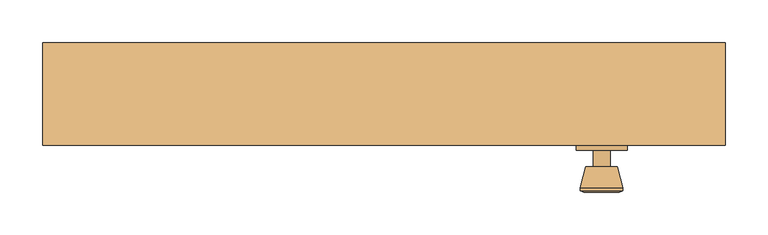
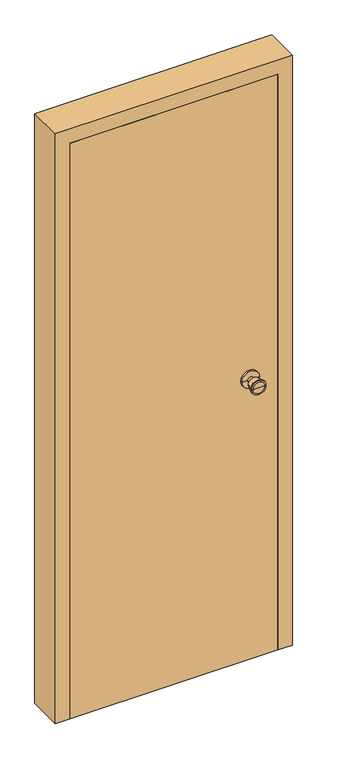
"""IFC4 building model written with IfcOpenShell, lengths in millimetres: door geometry, 單開-矩形- (1) : 80 * 210 cm."""

from ifc_helpers import new_model, si_unit, frame, origin, origin_with_axes, place, context, project, spatial, polyline, circle_curve, outline, extrude, faceted_brep, source, transform, mapped, element, save
from ifc_brep_helpers import plane_surface, cylinder_surface, revolved_surface, advanced_brep


def door_ad5a13f9(model_context):
    return source(origin(), model_context, "Body", "SolidModel", [
        advanced_brep(
        [(285.0, 144.0, 1000.0), (225.0, 144.0, 1000.0), (225.0, 150.0, 1000.0), (285.0, 150.0, 1000.0), (265.0, 144.0, 1000.0), (245.0, 144.0, 1000.0), (265.0, 125.0, 1000.0), (245.0, 125.0, 1000.0), (273.6, 125.0, 1000.0), (236.4, 125.0, 1000.0), (280.0, 100.3, 1000.0), (230.0, 100.3, 1000.0), (280.0, 96.8, 1000.0), (230.0, 96.8, 1000.0), (275.5, 95.0, 1000.0), (234.5, 95.0, 1000.0), (255.0, 95.0, 1000.0), (255.0, 150.0, 1000.0)],
        [
            (0, 1, circle_curve(frame((255.0, 144.0, 1000.0), z_axis=(0.0, 1.0, 0.0), x_axis=(-1.0, 0.0, 0.0)), 30.0)),
            (1, 2),
            (2, 3, circle_curve(frame((255.0, 150.0, 1000.0), z_axis=(0.0, -1.0, 0.0), x_axis=(-1.0, 0.0, 0.0)), 30.0)),
            (3, 0),
            (1, 0, circle_curve(frame((255.0, 144.0, 1000.0), z_axis=(0.0, 1.0, 0.0), x_axis=(-1.0, 0.0, 0.0)), 30.0)),
            (3, 2, circle_curve(frame((255.0, 150.0, 1000.0), z_axis=(0.0, -1.0, 0.0), x_axis=(-1.0, 0.0, 0.0)), 30.0)),
            (4, 5, circle_curve(frame((255.0, 144.0, 1000.0), z_axis=(0.0, 1.0, 0.0), x_axis=(-1.0, 0.0, 0.0)), 10.0)),
            (5, 1),
            (0, 4),
            (5, 4, circle_curve(frame((255.0, 144.0, 1000.0), z_axis=(0.0, 1.0, 0.0), x_axis=(-1.0, 0.0, 0.0)), 10.0)),
            (6, 7, circle_curve(frame((255.0, 125.0, 1000.0), z_axis=(0.0, 1.0, 0.0), x_axis=(-1.0, 0.0, 0.0)), 10.0)),
            (7, 5),
            (4, 6),
            (7, 6, circle_curve(frame((255.0, 125.0, 1000.0), z_axis=(0.0, 1.0, 0.0), x_axis=(-1.0, 0.0, 0.0)), 10.0)),
            (8, 9, circle_curve(frame((255.0, 125.0, 1000.0), z_axis=(0.0, 1.0, 0.0), x_axis=(-1.0, 0.0, 0.0)), 18.6)),
            (9, 7),
            (6, 8),
            (9, 8, circle_curve(frame((255.0, 125.0, 1000.0), z_axis=(0.0, 1.0, 0.0), x_axis=(-1.0, 0.0, 0.0)), 18.6)),
            (10, 11, circle_curve(frame((255.0, 100.3, 1000.0), z_axis=(0.0, 1.0, 0.0), x_axis=(-1.0, 0.0, 0.0)), 25.0)),
            (11, 9),
            (8, 10),
            (11, 10, circle_curve(frame((255.0, 100.3, 1000.0), z_axis=(0.0, 1.0, 0.0), x_axis=(-1.0, 0.0, 0.0)), 25.0)),
            (12, 13, circle_curve(frame((255.0, 96.8, 1000.0), z_axis=(0.0, 1.0, 0.0), x_axis=(-1.0, 0.0, 0.0)), 25.0)),
            (13, 11),
            (10, 12),
            (13, 12, circle_curve(frame((255.0, 96.8, 1000.0), z_axis=(0.0, 1.0, 0.0), x_axis=(-1.0, 0.0, 0.0)), 25.0)),
            (14, 15, circle_curve(frame((255.0, 95.0, 1000.0), z_axis=(0.0, 1.0, 0.0), x_axis=(-1.0, 0.0, 0.0)), 20.5)),
            (15, 13),
            (12, 14),
            (15, 14, circle_curve(frame((255.0, 95.0, 1000.0), z_axis=(0.0, 1.0, 0.0), x_axis=(-1.0, 0.0, 0.0)), 20.5)),
            (16, 15),
            (14, 16),
            (2, 17),
            (17, 3),
        ],
        [
            cylinder_surface(frame((255.0, 210.0, 1000.0), z_axis=(0.0, -1.0, 0.0), x_axis=(-1.0, 0.0, 0.0)), 30.0),
            plane_surface(frame((255.0, 144.0, 1000.0), z_axis=(0.0, -1.0, 0.0), x_axis=(-1.0, 0.0, 0.0))),
            cylinder_surface(frame((255.0, 210.0, 1000.0), z_axis=(0.0, -1.0, 0.0), x_axis=(-1.0, 0.0, 0.0)), 10.0),
            plane_surface(frame((255.0, 125.0, 1000.0), z_axis=(0.0, 1.0, 0.0), x_axis=(-1.0, 0.0, 0.0))),
            revolved_surface(polyline([(236.4, 125.0, 1000.0), (230.0, 100.3, 1000.0)]), (255.0, 210.0, 1000.0), (0.0, -1.0, 0.0)),
            cylinder_surface(frame((255.0, 210.0, 1000.0), z_axis=(0.0, -1.0, 0.0), x_axis=(-1.0, 0.0, 0.0)), 25.0),
            revolved_surface(polyline([(230.0, 96.8, 1000.0), (234.5, 95.0, 1000.0)]), (255.0, 210.0, 1000.0), (0.0, -1.0, 0.0)),
            plane_surface(frame((255.0, 95.0, 1000.0), z_axis=(0.0, -1.0, 0.0), x_axis=(-1.0, 0.0, 0.0))),
            plane_surface(frame((255.0, 150.0, 1000.0), z_axis=(0.0, 1.0, 0.0), x_axis=(-1.0, 0.0, 0.0))),
        ],
        [
            (0, [[1, 2, 3, 4]]),
            (0, [[5, -4, 6, -2]]),
            (1, [[7, 8, -1, 9]]),
            (1, [[10, -9, -5, -8]]),
            (2, [[11, 12, -7, 13]]),
            (2, [[14, -13, -10, -12]]),
            (3, [[15, 16, -11, 17]]),
            (3, [[18, -17, -14, -16]]),
            (4, [[19, 20, -15, 21]]),
            (4, [[22, -21, -18, -20]]),
            (5, [[23, 24, -19, 25]]),
            (5, [[26, -25, -22, -24]]),
            (6, [[27, 28, -23, 29]]),
            (6, [[30, -29, -26, -28]]),
            (7, [[31, -27, 32]]),
            (7, [[-32, -30, -31]]),
            (8, [[-3, 33, 34]]),
            (8, [[-6, -34, -33]]),
        ],
    ),
        advanced_brep(
        [(285.0, 196.0, 1000.0), (285.0, 190.0, 1000.0), (225.0, 190.0, 1000.0), (225.0, 196.0, 1000.0), (265.0, 196.0, 1000.0), (245.0, 196.0, 1000.0), (265.0, 215.0, 1000.0), (245.0, 215.0, 1000.0), (273.6, 215.0, 1000.0), (236.4, 215.0, 1000.0), (280.0, 239.7, 1000.0), (230.0, 239.7, 1000.0), (280.0, 243.2, 1000.0), (230.0, 243.2, 1000.0), (275.5, 245.0, 1000.0), (234.5, 245.0, 1000.0), (255.0, 245.0, 1000.0), (255.0, 190.0, 1000.0)],
        [
            (0, 1),
            (1, 2, circle_curve(frame((255.0, 190.0, 1000.0), z_axis=(0.0, 1.0, 0.0), x_axis=(-1.0, 0.0, 0.0)), 30.0)),
            (2, 3),
            (3, 0, circle_curve(frame((255.0, 196.0, 1000.0), z_axis=(0.0, -1.0, 0.0), x_axis=(-1.0, 0.0, 0.0)), 30.0)),
            (2, 1, circle_curve(frame((255.0, 190.0, 1000.0), z_axis=(0.0, 1.0, 0.0), x_axis=(-1.0, 0.0, 0.0)), 30.0)),
            (0, 3, circle_curve(frame((255.0, 196.0, 1000.0), z_axis=(0.0, -1.0, 0.0), x_axis=(-1.0, 0.0, 0.0)), 30.0)),
            (4, 0),
            (3, 5),
            (5, 4, circle_curve(frame((255.0, 196.0, 1000.0), z_axis=(0.0, -1.0, 0.0), x_axis=(-1.0, 0.0, 0.0)), 10.0)),
            (4, 5, circle_curve(frame((255.0, 196.0, 1000.0), z_axis=(0.0, -1.0, 0.0), x_axis=(-1.0, 0.0, 0.0)), 10.0)),
            (6, 4),
            (5, 7),
            (7, 6, circle_curve(frame((255.0, 215.0, 1000.0), z_axis=(0.0, -1.0, 0.0), x_axis=(-1.0, 0.0, 0.0)), 10.0)),
            (6, 7, circle_curve(frame((255.0, 215.0, 1000.0), z_axis=(0.0, -1.0, 0.0), x_axis=(-1.0, 0.0, 0.0)), 10.0)),
            (8, 6),
            (7, 9),
            (9, 8, circle_curve(frame((255.0, 215.0, 1000.0), z_axis=(0.0, -1.0, 0.0), x_axis=(-1.0, 0.0, 0.0)), 18.6)),
            (8, 9, circle_curve(frame((255.0, 215.0, 1000.0), z_axis=(0.0, -1.0, 0.0), x_axis=(-1.0, 0.0, 0.0)), 18.6)),
            (10, 8),
            (9, 11),
            (11, 10, circle_curve(frame((255.0, 239.7, 1000.0), z_axis=(0.0, -1.0, 0.0), x_axis=(-1.0, 0.0, 0.0)), 25.0)),
            (10, 11, circle_curve(frame((255.0, 239.7, 1000.0), z_axis=(0.0, -1.0, 0.0), x_axis=(-1.0, 0.0, 0.0)), 25.0)),
            (12, 10),
            (11, 13),
            (13, 12, circle_curve(frame((255.0, 243.2, 1000.0), z_axis=(0.0, -1.0, 0.0), x_axis=(-1.0, 0.0, 0.0)), 25.0)),
            (12, 13, circle_curve(frame((255.0, 243.2, 1000.0), z_axis=(0.0, -1.0, 0.0), x_axis=(-1.0, 0.0, 0.0)), 25.0)),
            (14, 12),
            (13, 15),
            (15, 14, circle_curve(frame((255.0, 245.0, 1000.0), z_axis=(0.0, -1.0, 0.0), x_axis=(-1.0, 0.0, 0.0)), 20.5)),
            (14, 15, circle_curve(frame((255.0, 245.0, 1000.0), z_axis=(0.0, -1.0, 0.0), x_axis=(-1.0, 0.0, 0.0)), 20.5)),
            (16, 14),
            (15, 16),
            (1, 17),
            (17, 2),
        ],
        [
            cylinder_surface(frame((255.0, 130.0, 1000.0), z_axis=(0.0, 1.0, 0.0), x_axis=(-1.0, 0.0, 0.0)), 30.0),
            plane_surface(frame((255.0, 196.0, 1000.0), z_axis=(0.0, 1.0, 0.0), x_axis=(-1.0, 0.0, 0.0))),
            cylinder_surface(frame((255.0, 130.0, 1000.0), z_axis=(0.0, 1.0, 0.0), x_axis=(-1.0, 0.0, 0.0)), 10.0),
            plane_surface(frame((255.0, 215.0, 1000.0), z_axis=(0.0, -1.0, 0.0), x_axis=(-1.0, 0.0, 0.0))),
            revolved_surface(polyline([(236.4, 215.0, 1000.0), (230.0, 239.7, 1000.0)]), (255.0, 130.0, 1000.0), (0.0, 1.0, 0.0)),
            cylinder_surface(frame((255.0, 130.0, 1000.0), z_axis=(0.0, 1.0, 0.0), x_axis=(-1.0, 0.0, 0.0)), 25.0),
            revolved_surface(polyline([(230.0, 243.2, 1000.0), (234.5, 245.0, 1000.0)]), (255.0, 130.0, 1000.0), (0.0, 1.0, 0.0)),
            plane_surface(frame((255.0, 245.0, 1000.0), z_axis=(0.0, 1.0, 0.0), x_axis=(-1.0, 0.0, 0.0))),
            plane_surface(frame((255.0, 190.0, 1000.0), z_axis=(0.0, -1.0, 0.0), x_axis=(-1.0, 0.0, 0.0))),
        ],
        [
            (0, [[1, 2, 3, 4]]),
            (0, [[-3, 5, -1, 6]]),
            (1, [[7, -4, 8, 9]]),
            (1, [[-8, -6, -7, 10]]),
            (2, [[11, -9, 12, 13]]),
            (2, [[-12, -10, -11, 14]]),
            (3, [[15, -13, 16, 17]]),
            (3, [[-16, -14, -15, 18]]),
            (4, [[19, -17, 20, 21]]),
            (4, [[-20, -18, -19, 22]]),
            (5, [[23, -21, 24, 25]]),
            (5, [[-24, -22, -23, 26]]),
            (6, [[27, -25, 28, 29]]),
            (6, [[-28, -26, -27, 30]]),
            (7, [[31, -29, 32]]),
            (7, [[-32, -30, -31]]),
            (8, [[33, 34, -2]]),
            (8, [[-34, -33, -5]]),
        ],
    ),
        extrude(outline(polyline([(350.0, 190.0), (350.0, 150.0), (-350.0, 150.0), (-350.0, 190.0), (350.0, 190.0)])), origin_with_axes(), (0.0, 0.0, 1.0), 2050.0),
        faceted_brep([(350.0, 150.0, 0.0), (350.0, 190.0, 0.0), (330.0, 190.0, 0.0), (330.0, 270.0, 0.0), (400.0, 270.0, 0.0), (400.0, 150.0, 0.0), (400.0, 150.0, 2100.0), (-400.0, 150.0, 2100.0), (-400.0, 150.0, 0.0), (-350.0, 150.0, 0.0), (-350.0, 150.0, 2050.0), (350.0, 150.0, 2050.0), (400.0, 270.0, 2100.0), (330.0, 270.0, 2030.0), (-330.0, 270.0, 2030.0), (-330.0, 270.0, 0.0), (-400.0, 270.0, 0.0), (-400.0, 270.0, 2100.0), (330.0, 190.0, 2030.0), (350.0, 190.0, 2050.0), (-350.0, 190.0, 2050.0), (-350.0, 190.0, 0.0), (-330.0, 190.0, 0.0), (-330.0, 190.0, 2030.0)], [[[0, 1, 2, 3, 4, 5]], [[5, 6, 7, 8, 9, 10, 11, 0]], [[4, 12, 6, 5]], [[3, 13, 14, 15, 16, 17, 12, 4]], [[2, 18, 13, 3]], [[1, 19, 20, 21, 22, 23, 18, 2]], [[0, 11, 19, 1]], [[12, 17, 7, 6]], [[18, 23, 14, 13]], [[11, 10, 20, 19]], [[9, 8, 16, 15, 22, 21]], [[17, 16, 8, 7]], [[23, 22, 15, 14]], [[10, 9, 21, 20]]]),
    ])


if __name__ == "__main__":
    model = new_model("IFC4")
    model_context = context("Model", 3, world=origin())
    ifc_project = project(units=[si_unit("LENGTHUNIT", "METRE", prefix="MILLI")], contexts=[model_context])
    site = spatial("IfcSite", under=ifc_project)
    building = spatial("IfcBuilding", under=site)
    placement = place(None, origin())
    door_shape = door_ad5a13f9(model_context)
    element("IfcDoor", 1, ObjectType="單開-矩形- (1) : 80 * 210 cm", at=placement, inside=building, context=model_context, shape_type="MappedRepresentation", body=[
        mapped(door_shape, transform((0.0, 0.0, 0.0), x_axis=(1.0, 0.0, 0.0), y_axis=(0.0, 1.0, 0.0), z_axis=(0.0, 0.0, 1.0))),
    ])
    save(model, "model.ifc")
